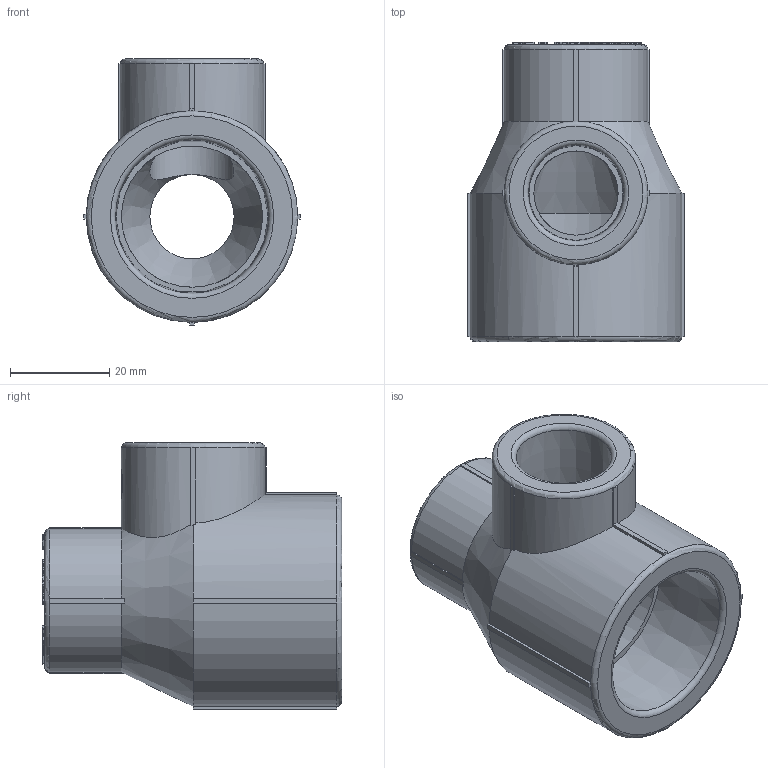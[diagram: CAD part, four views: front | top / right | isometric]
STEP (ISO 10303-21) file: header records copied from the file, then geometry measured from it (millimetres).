
FILE_DESCRIPTION(('STEP AP203'), '1');
FILE_NAME('ÂÐ.752241.054 - VTp.735.0.032020020', '', ('UNSPECIFIED'), ('UNSPECIFIED'), 'C3D Converter', 'C3D Toolkit', '');
FILE_SCHEMA(('CONFIG_CONTROL_DESIGN'));
Length unit declared in the file: millimetre
Products named in the file (1): ВР.752241.054
Bounding box: 43.8 x 60.5 x 53.75 mm (x, y, z)
Volume: 41739.1 mm3; surface area: 15294.4 mm2
Topology: 1 solids, 1 shells, 1145 faces, 3215 edges, 2132 vertices
Faces by surface type: extrusion 670, plane 424, cylinder 40, torus 6, cone 5
Full cylindrical faces by diameter (mm): 6 x1, 17 x2, 28.5 x1
Entity records: 42117 total; most frequent: CARTESIAN_POINT 16092, ORIENTED_EDGE 6404, DIRECTION 3232, EDGE_CURVE 3202, VECTOR 2160, VERTEX_POINT 2132, B_SPLINE_CURVE_WITH_KNOTS 2031, LINE 1490
